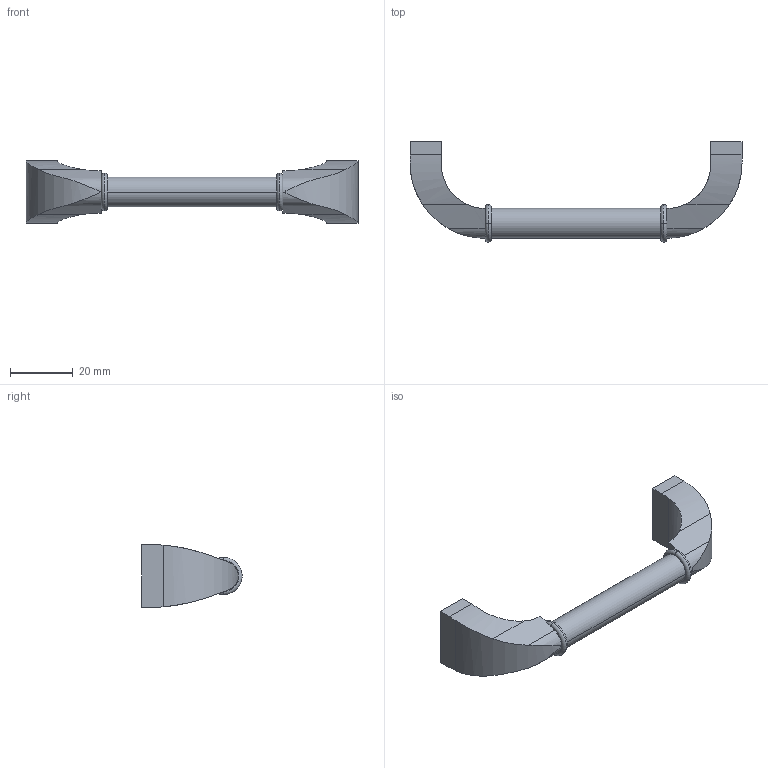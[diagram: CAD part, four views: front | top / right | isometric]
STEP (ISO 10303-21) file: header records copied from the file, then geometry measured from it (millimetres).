
FILE_DESCRIPTION( ( '' ), '1' );
FILE_NAME( 'D:/1.AUTOCAD EXPORT/Group 10/sheet_10_1/115283.stp', '2013-10-21T12:08:00', ( '' ), ( '' ), ' ', ' ', ' ' );
FILE_SCHEMA( ( 'automotive_design' ) );
Length unit declared in the file: millimetre
Products named in the file (1): 1
Bounding box: 106 x 32 x 20 mm (x, y, z)
Volume: 14998.7 mm3; surface area: 6156.6 mm2
Topology: 1 solids, 1 shells, 53 faces, 130 edges, 83 vertices
Faces by surface type: plane 23, cylinder 22, torus 8
Entity records: 3263 total; most frequent: CARTESIAN_POINT 477, DIRECTION 282, STYLED_ITEM 267, PRESENTATION_STYLE_ASSIGNMENT 267, COLOUR_RGB 267, ORIENTED_EDGE 260, EDGE_CURVE 130, CURVE_STYLE 130
